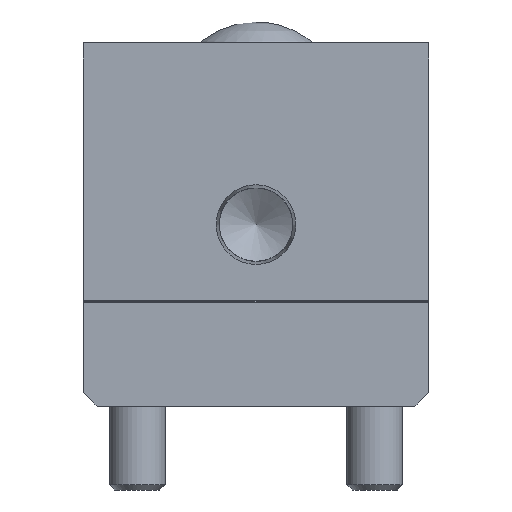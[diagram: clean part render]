
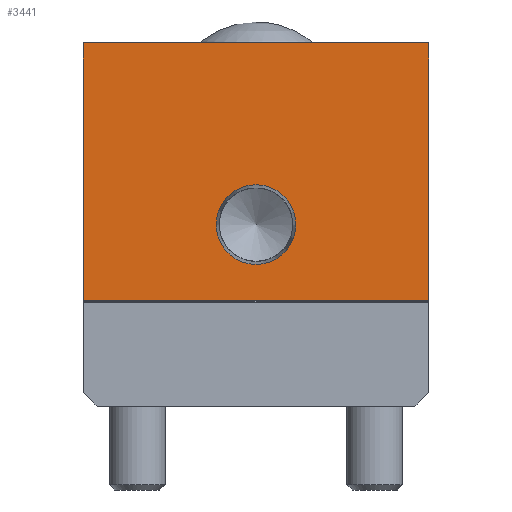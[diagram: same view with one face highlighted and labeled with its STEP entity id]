
A CAD part, front view. The second image highlights one B-rep face of the part: STEP entity #3441.
In plain terms, the highlighted planar face has unit normal (0, -1, 0).
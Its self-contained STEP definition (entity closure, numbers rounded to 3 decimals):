
#190=FACE_BOUND('',#725,.T.);
#285=CIRCLE('',#3666,5.704);
#471=FACE_OUTER_BOUND('',#724,.T.);
#724=EDGE_LOOP('',(#2467,#2468,#2469,#2470));
#725=EDGE_LOOP('',(#2471));
#1054=LINE('',#5111,#1322);
#1057=LINE('',#5116,#1325);
#1059=LINE('',#5124,#1327);
#1073=LINE('',#5160,#1341);
#1322=VECTOR('',#4129,36.9);
#1325=VECTOR('',#4134,49.5);
#1327=VECTOR('',#4142,36.9);
#1341=VECTOR('',#4186,49.5);
#1573=VERTEX_POINT('',#5108);
#1574=VERTEX_POINT('',#5110);
#1575=VERTEX_POINT('',#5114);
#1578=VERTEX_POINT('',#5122);
#1582=VERTEX_POINT('',#5136);
#1897=EDGE_CURVE('',#1574,#1573,#1054,.T.);
#1900=EDGE_CURVE('',#1573,#1575,#1057,.T.);
#1904=EDGE_CURVE('',#1578,#1575,#1059,.T.);
#1909=EDGE_CURVE('',#1582,#1582,#285,.T.);
#1922=EDGE_CURVE('',#1578,#1574,#1073,.T.);
#2467=ORIENTED_EDGE('',*,*,#1922,.T.);
#2468=ORIENTED_EDGE('',*,*,#1897,.T.);
#2469=ORIENTED_EDGE('',*,*,#1900,.T.);
#2470=ORIENTED_EDGE('',*,*,#1904,.F.);
#2471=ORIENTED_EDGE('',*,*,#1909,.T.);
#3110=PLANE('',#3699);
#3441=ADVANCED_FACE('',(#471,#190),#3110,.T.);
#3666=AXIS2_PLACEMENT_3D('',#5137,#4157,#4158);
#3699=AXIS2_PLACEMENT_3D('',#5198,#4240,#4241);
#4129=DIRECTION('',(0.,0.,1.));
#4134=DIRECTION('',(-1.,0.,0.));
#4142=DIRECTION('',(0.,0.,1.));
#4157=DIRECTION('center_axis',(0.,1.,0.));
#4158=DIRECTION('ref_axis',(1.,0.,0.));
#4186=DIRECTION('',(1.,0.,0.));
#4240=DIRECTION('center_axis',(0.,-1.,0.));
#4241=DIRECTION('ref_axis',(0.,0.,-1.));
#5108=CARTESIAN_POINT('',(24.75,0.,52.));
#5110=CARTESIAN_POINT('',(24.75,0.,15.1));
#5111=CARTESIAN_POINT('',(24.75,0.,0.));
#5114=CARTESIAN_POINT('',(-24.75,0.,52.));
#5116=CARTESIAN_POINT('',(24.75,0.,52.));
#5122=CARTESIAN_POINT('',(-24.75,0.,15.1));
#5124=CARTESIAN_POINT('',(-24.75,0.,0.));
#5136=CARTESIAN_POINT('',(5.704,0.,26.));
#5137=CARTESIAN_POINT('Origin',(0.,0.,26.));
#5160=CARTESIAN_POINT('',(24.75,0.,15.1));
#5198=CARTESIAN_POINT('Origin',(24.75,0.,0.));
